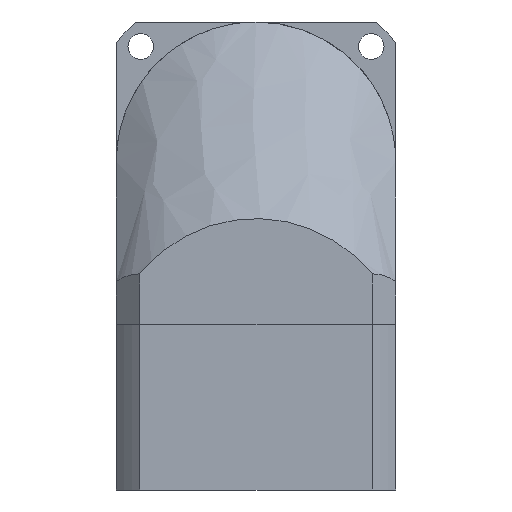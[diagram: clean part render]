
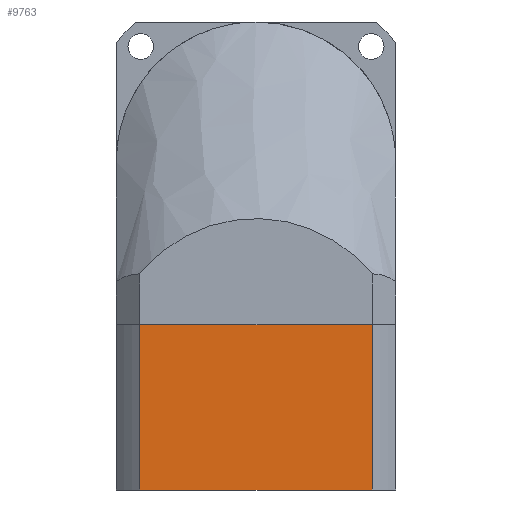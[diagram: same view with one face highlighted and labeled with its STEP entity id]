
A CAD part, front view. The second image highlights one B-rep face of the part: STEP entity #9763.
In plain terms, the highlighted planar face has unit normal (0, -1, 0).
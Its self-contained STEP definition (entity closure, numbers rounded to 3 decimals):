
#127 = CARTESIAN_POINT ( 'NONE',  ( 24.92, -30., 0. ) ) ;
#679 = DIRECTION ( 'NONE',  ( 0., 0., -1. ) ) ;
#2175 = CARTESIAN_POINT ( 'NONE',  ( -30., -30., -35.5 ) ) ;
#2222 = VECTOR ( 'NONE', #9029, 1000. ) ;
#2575 = AXIS2_PLACEMENT_3D ( 'NONE', #2175, #3767, #679 ) ;
#2655 = VERTEX_POINT ( 'NONE', #8939 ) ;
#3767 = DIRECTION ( 'NONE',  ( 0., -1., 0. ) ) ;
#4142 = VERTEX_POINT ( 'NONE', #18412 ) ;
#4489 = FACE_OUTER_BOUND ( 'NONE', #12879, .T. ) ;
#6407 = VERTEX_POINT ( 'NONE', #8544 ) ;
#6507 = CARTESIAN_POINT ( 'NONE',  ( 0., -30., -35.5 ) ) ;
#8345 = ORIENTED_EDGE ( 'NONE', *, *, #16073, .T. ) ;
#8422 = PLANE ( 'NONE',  #2575 ) ;
#8544 = CARTESIAN_POINT ( 'NONE',  ( 24.92, -30., -35.5 ) ) ;
#8698 = LINE ( 'NONE', #6507, #13905 ) ;
#8756 = DIRECTION ( 'NONE',  ( 0., 0., -1. ) ) ;
#8939 = CARTESIAN_POINT ( 'NONE',  ( 24.92, -30., 0. ) ) ;
#9029 = DIRECTION ( 'NONE',  ( -1., 0., 0. ) ) ;
#9763 = ADVANCED_FACE ( 'NONE', ( #4489 ), #8422, .T. ) ;
#10650 = VECTOR ( 'NONE', #8756, 1000. ) ;
#12406 = ORIENTED_EDGE ( 'NONE', *, *, #12938, .F. ) ;
#12549 = LINE ( 'NONE', #20001, #2222 ) ;
#12879 = EDGE_LOOP ( 'NONE', ( #15793, #8345, #12406, #16657 ) ) ;
#12938 = EDGE_CURVE ( 'NONE', #2655, #6407, #14698, .T. ) ;
#12968 = VECTOR ( 'NONE', #19101, 1000. ) ;
#13905 = VECTOR ( 'NONE', #14251, 1000. ) ;
#14251 = DIRECTION ( 'NONE',  ( 1., 0., 0. ) ) ;
#14698 = LINE ( 'NONE', #127, #12968 ) ;
#15356 = LINE ( 'NONE', #18342, #10650 ) ;
#15741 = VERTEX_POINT ( 'NONE', #19191 ) ;
#15793 = ORIENTED_EDGE ( 'NONE', *, *, #16704, .T. ) ;
#16073 = EDGE_CURVE ( 'NONE', #15741, #6407, #8698, .T. ) ;
#16657 = ORIENTED_EDGE ( 'NONE', *, *, #20003, .T. ) ;
#16704 = EDGE_CURVE ( 'NONE', #4142, #15741, #15356, .T. ) ;
#18342 = CARTESIAN_POINT ( 'NONE',  ( -24.92, -30., -35.5 ) ) ;
#18412 = CARTESIAN_POINT ( 'NONE',  ( -24.92, -30., 0. ) ) ;
#19101 = DIRECTION ( 'NONE',  ( 0., 0., -1. ) ) ;
#19191 = CARTESIAN_POINT ( 'NONE',  ( -24.92, -30., -35.5 ) ) ;
#20001 = CARTESIAN_POINT ( 'NONE',  ( 0., -30., 0. ) ) ;
#20003 = EDGE_CURVE ( 'NONE', #2655, #4142, #12549, .T. ) ;
